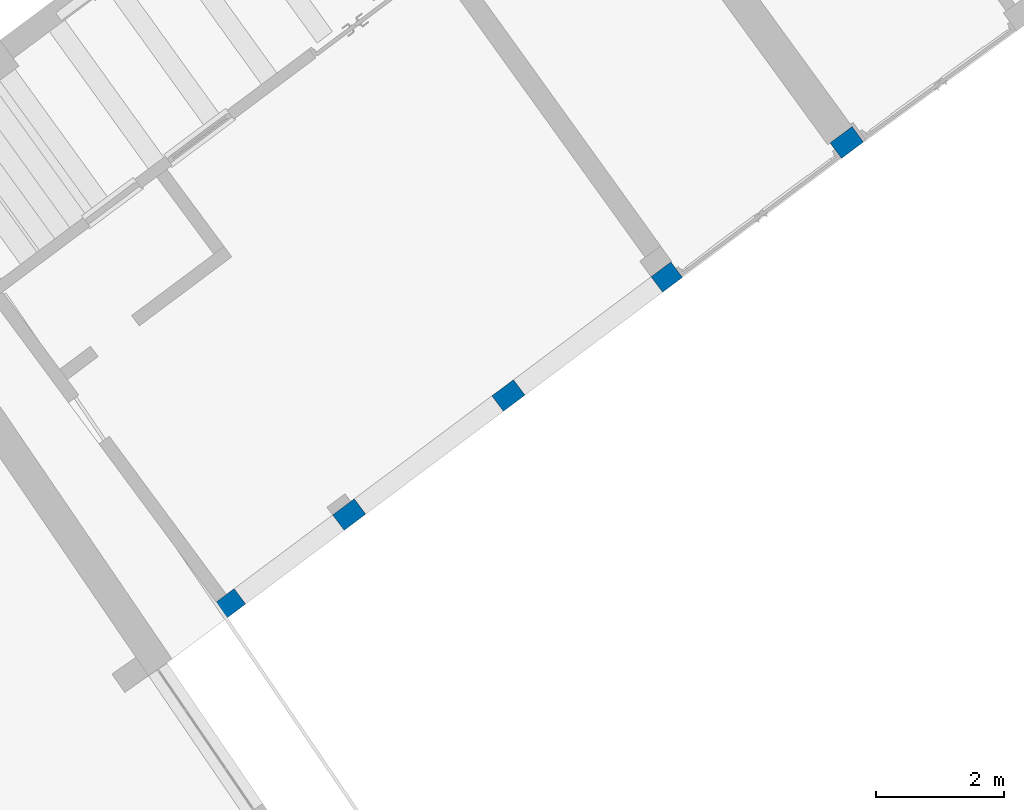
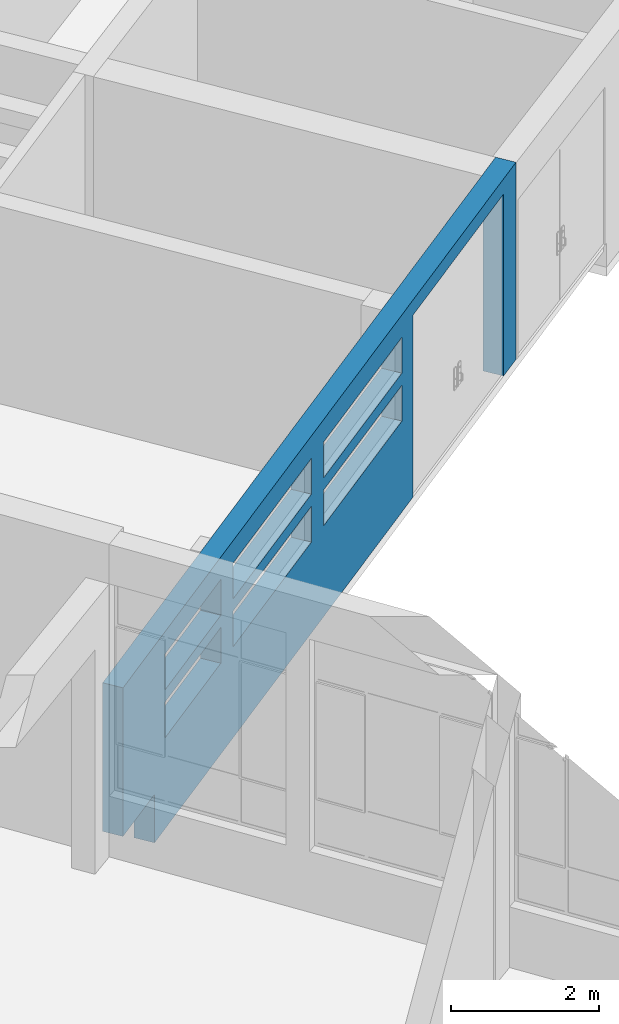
# One storey, part 134 of 157: 1 wall, 7 openings.
"""IFC2X3 building model written with IfcOpenShell, lengths in millimetres."""

from ifc_helpers import new_model, entity, si_unit, converted_unit, derived_unit, direction, frame, frame_2d, origin, place, context, subcontext, project, spatial, rectangle, extrude, faceted_brep, material, layer, layer_set, type_object, element, save


model = new_model("IFC2X3")

# Units and contexts
model_context = context("Model", 3, precision=0.01, world=origin(), true_north=direction((6.123031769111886e-17, 1.0)))
body_context = subcontext(model_context, "Body", "Model", "MODEL_VIEW")
ifc_project = project(units=[si_unit("LENGTHUNIT", "METRE", prefix="MILLI"), si_unit("AREAUNIT", "SQUARE_METRE"), si_unit("VOLUMEUNIT", "CUBIC_METRE"), converted_unit("PLANEANGLEUNIT", "DEGREE", entity("IfcRatioMeasure", 0.017453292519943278), si_unit("PLANEANGLEUNIT", "RADIAN"), dimensions=[0, 0, 0, 0, 0, 0, 0]), si_unit("MASSUNIT", "GRAM", prefix="KILO"), derived_unit("MASSDENSITYUNIT", [(si_unit("MASSUNIT", "GRAM", prefix="KILO"), 1), (si_unit("LENGTHUNIT", "METRE"), -3)]), derived_unit("MOMENTOFINERTIAUNIT", [(si_unit("LENGTHUNIT", "METRE"), 4)]), si_unit("TIMEUNIT", "SECOND"), si_unit("FREQUENCYUNIT", "HERTZ"), si_unit("THERMODYNAMICTEMPERATUREUNIT", "DEGREE_CELSIUS"), derived_unit("THERMALTRANSMITTANCEUNIT", [(si_unit("MASSUNIT", "GRAM", prefix="KILO"), 1), (si_unit("THERMODYNAMICTEMPERATUREUNIT", "KELVIN"), -1), (si_unit("TIMEUNIT", "SECOND"), -3)]), derived_unit("THERMALCONDUCTANCEUNIT", [(si_unit("MASSUNIT", "GRAM", prefix="KILO"), 1), (si_unit("LENGTHUNIT", "METRE"), 1), (si_unit("THERMODYNAMICTEMPERATUREUNIT", "KELVIN"), -1), (si_unit("TIMEUNIT", "SECOND"), -3)]), derived_unit("VOLUMETRICFLOWRATEUNIT", [(si_unit("LENGTHUNIT", "METRE"), 3), (si_unit("TIMEUNIT", "SECOND"), -1)]), derived_unit("MASSFLOWRATEUNIT", [(si_unit("MASSUNIT", "GRAM", prefix="KILO"), 1), (si_unit("TIMEUNIT", "SECOND"), -1)]), derived_unit("ROTATIONALFREQUENCYUNIT", [(si_unit("TIMEUNIT", "SECOND"), -1)]), si_unit("ELECTRICCURRENTUNIT", "AMPERE"), si_unit("ELECTRICVOLTAGEUNIT", "VOLT"), si_unit("POWERUNIT", "WATT"), converted_unit("FORCEUNIT", "KIP", entity("IfcRatioMeasure", 2.088543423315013e-05), si_unit("FORCEUNIT", "NEWTON"), dimensions=[1, 1, -2, 0, 0, 0, 0]), si_unit("ILLUMINANCEUNIT", "LUX"), si_unit("LUMINOUSFLUXUNIT", "LUMEN"), si_unit("LUMINOUSINTENSITYUNIT", "CANDELA"), derived_unit("USERDEFINED", [(si_unit("MASSUNIT", "GRAM", prefix="KILO"), -1), (si_unit("LENGTHUNIT", "METRE"), -2), (si_unit("TIMEUNIT", "SECOND"), 3), (si_unit("LUMINOUSFLUXUNIT", "LUMEN"), 1)]), derived_unit("USERDEFINED", [(si_unit("MASSUNIT", "GRAM", prefix="KILO"), 1), (si_unit("LENGTHUNIT", "METRE"), 3), (si_unit("TIMEUNIT", "SECOND"), -3), (si_unit("ELECTRICCURRENTUNIT", "AMPERE"), -2)]), derived_unit("USERDEFINED", [(si_unit("LENGTHUNIT", "METRE"), 2), (si_unit("TIMEUNIT", "SECOND"), -2)]), derived_unit("SOUNDPOWERUNIT", [(si_unit("MASSUNIT", "GRAM", prefix="KILO"), 1), (si_unit("LENGTHUNIT", "METRE"), 2), (si_unit("TIMEUNIT", "SECOND"), -3)]), derived_unit("SOUNDPRESSUREUNIT", [(si_unit("MASSUNIT", "GRAM", prefix="KILO"), 1), (si_unit("LENGTHUNIT", "METRE"), -1), (si_unit("TIMEUNIT", "SECOND"), -2)]), derived_unit("LINEARVELOCITYUNIT", [(si_unit("LENGTHUNIT", "METRE"), 1), (si_unit("TIMEUNIT", "SECOND"), -1)]), si_unit("PRESSUREUNIT", "PASCAL"), derived_unit("USERDEFINED", [(si_unit("LENGTHUNIT", "METRE"), -2), (si_unit("MASSUNIT", "GRAM", prefix="KILO"), 1), (si_unit("TIMEUNIT", "SECOND"), -2)]), derived_unit("LINEARFORCEUNIT", [(si_unit("MASSUNIT", "GRAM", prefix="KILO"), 1), (si_unit("LENGTHUNIT", "METRE"), 1), (si_unit("TIMEUNIT", "SECOND"), -2), (si_unit("LENGTHUNIT", "METRE"), -1)]), derived_unit("PLANARFORCEUNIT", [(si_unit("MASSUNIT", "GRAM", prefix="KILO"), 1), (si_unit("LENGTHUNIT", "METRE"), 1), (si_unit("TIMEUNIT", "SECOND"), -2), (si_unit("LENGTHUNIT", "METRE"), -2)]), derived_unit("SPECIFICHEATCAPACITYUNIT", [(si_unit("LENGTHUNIT", "METRE"), 2), (si_unit("TIMEUNIT", "SECOND"), -2), (si_unit("THERMODYNAMICTEMPERATUREUNIT", "KELVIN"), -1)]), derived_unit("VAPORPERMEABILITYUNIT", [(si_unit("TIMEUNIT", "SECOND"), 1), (si_unit("LENGTHUNIT", "METRE"), -1)]), derived_unit("DYNAMICVISCOSITYUNIT", [(si_unit("MASSUNIT", "GRAM", prefix="KILO"), 1), (si_unit("LENGTHUNIT", "METRE"), -1), (si_unit("TIMEUNIT", "SECOND"), -1)]), derived_unit("THERMALEXPANSIONCOEFFICIENTUNIT", [(si_unit("THERMODYNAMICTEMPERATUREUNIT", "KELVIN"), -1)])], contexts=[model_context])

# Site, building, storey
site_placement = place(None, frame((0.0, 0.0, 0.0), z_axis=(0.0, 0.0, 1.0), x_axis=(0.8191520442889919, 0.5735764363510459, 0.0)))
site = spatial("IfcSite", under=ifc_project, at=site_placement, Name="Default", CompositionType="ELEMENT")
building_placement = place(site_placement, origin())
building = spatial("IfcBuilding", under=site, at=building_placement, CompositionType="ELEMENT")
storey_placement = place(building_placement, origin())
storey = spatial("IfcBuildingStorey", under=building, at=storey_placement, Name="1.EG +0.00", CompositionType="ELEMENT", Elevation=-4.331468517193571e-12)

# Wall, openings
ifc_material = material(Name="Analytical Wall Surface_CJC")
ifc_layer = layer(ifc_material, 300.0)
ifc_layer_set = layer_set([ifc_layer], Name="Basic Wall:Wand_Aussen_30")
wall_type = type_object("IfcWallType", Name="Basic Wall:Wand_Aussen_30", PredefinedType="STANDARD", material=ifc_layer_set)
wall_placement = place(storey_placement, frame((-204115.16931109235, 157974.41195440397, -750.0), z_axis=(0.0, 0.0, 1.0), x_axis=(0.9995120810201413, 0.031234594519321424, 0.0)))
wall = element("IfcWall", 1, at=wall_placement, inside=storey, type_object=wall_type, Name="Basic Wall:Wand_Aussen_30", ObjectType="Basic Wall:Wand_Aussen_30", context=body_context, shape_type="Brep", body=[
    faceted_brep([(13462.146148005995, -150.0, 3250.0), (0.0, -150.0, 3250.0), (0.0, -150.0, 800.0), (1079.6115661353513, -150.0, 800.0), (1079.6115661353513, -150.0, 0.0), (9937.425197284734, -150.0, 0.0), (9937.425197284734, -150.0, 3000.0), (13037.425197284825, -150.0, 3000.0), (13037.425197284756, -150.0, 0.0), (13462.146148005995, -150.0, 0.0), (6451.92844655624, -150.0, 1500.0), (3771.928446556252, -150.0, 1500.0), (3771.928446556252, -150.0, 2090.0), (6451.92844655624, -150.0, 2090.0), (9551.928446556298, -150.0, 1500.0), (6871.928446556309, -150.0, 1500.0), (6871.928446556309, -150.0, 2090.0), (9551.928446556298, -150.0, 2090.0), (3351.9284465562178, -150.0, 1500.0), (1431.928446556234, -150.0, 1500.0), (1431.928446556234, -150.0, 2090.0), (3351.9284465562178, -150.0, 2090.0), (3351.9284465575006, -150.0, 2880.0), (3351.9284465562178, -150.0, 2290.0), (1431.928446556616, -150.0, 2290.0), (1431.9284465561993, -150.0, 2880.0), (9551.928446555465, -150.0, 2880.0), (9551.928446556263, -150.0, 2290.0), (6871.928446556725, -150.0, 2290.0), (6871.928446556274, -150.0, 2880.0), (6451.928446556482, -150.0, 2880.0), (6451.928446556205, -150.0, 2290.0), (3771.9284465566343, -150.0, 2290.0), (3771.9284465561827, -150.0, 2880.0), (0.0, 150.0, 3250.0), (1081.098058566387, 150.0, 3250.0), (1281.100513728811, 150.0, 3250.0), (3351.9284465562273, 150.0, 3250.0), (3701.9284465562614, 150.0, 3250.0), (9551.928446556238, 150.0, 3250.0), (9951.967355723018, 150.0, 3250.0), (12990.91558234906, 150.0, 3250.0), (13465.953840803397, 150.0, 3250.0), (13465.953840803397, 150.0, 0.0), (13037.425197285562, 150.0, 0.0), (13037.42519728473, 150.0, 3000.0), (9937.425197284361, 150.0, 3000.0), (9937.425197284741, 150.0, 0.0), (1281.100513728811, 150.0, 0.0), (1081.098058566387, 150.0, 0.0), (1081.098058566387, 150.0, 800.0), (0.0, 150.0, 800.0), (6451.928446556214, 150.0, 1500.0), (6451.928446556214, 150.0, 2090.0), (3771.9284465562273, 150.0, 2090.0), (3771.9284465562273, 150.0, 1500.0), (9551.928446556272, 150.0, 1500.0), (9551.928446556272, 150.0, 2090.0), (6871.928446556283, 150.0, 2090.0), (6871.928446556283, 150.0, 1500.0), (3351.9284465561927, 150.0, 1500.0), (3351.9284465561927, 150.0, 2090.0), (1431.9284465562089, 150.0, 2090.0), (1431.9284465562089, 150.0, 1500.0), (9551.928446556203, 150.0, 2290.0), (9551.928446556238, 150.0, 2880.0), (6871.928446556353, 150.0, 2880.0), (6871.928446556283, 150.0, 2290.0), (6451.928446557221, 150.0, 2290.0), (6451.928446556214, 150.0, 2880.0), (3771.928446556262, 150.0, 2880.0), (3771.9284465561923, 150.0, 2290.0), (3351.9284465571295, 150.0, 2290.0), (3351.9284465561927, 150.0, 2880.0), (1431.9284465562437, 150.0, 2880.0), (1431.9284465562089, 150.0, 2290.0)], [[[0, 1, 2, 3, 4, 5, 6, 7, 8, 9], [10, 11, 12, 13], [14, 15, 16, 17], [18, 19, 20, 21], [22, 23, 24, 25], [26, 27, 28, 29], [30, 31, 32, 33]], [[34, 35, 36, 37, 38, 39, 40, 41, 42, 43, 44, 45, 46, 47, 48, 49, 50, 51], [52, 53, 54, 55], [56, 57, 58, 59], [60, 61, 62, 63], [64, 65, 66, 67], [68, 69, 70, 71], [72, 73, 74, 75]], [[0, 9, 43, 42]], [[4, 49, 48, 47, 5]], [[1, 0, 42, 41, 40, 39, 38, 37, 36, 35, 34]], [[2, 1, 34, 51]], [[3, 2, 51, 50]], [[4, 3, 50, 49]], [[46, 6, 5, 47]], [[6, 46, 45, 7]], [[7, 45, 44, 8]], [[53, 52, 10, 13]], [[54, 53, 13, 12]], [[55, 54, 12, 11]], [[52, 55, 11, 10]], [[57, 56, 14, 17]], [[58, 57, 17, 16]], [[59, 58, 16, 15]], [[56, 59, 15, 14]], [[61, 60, 18, 21]], [[62, 61, 21, 20]], [[63, 62, 20, 19]], [[60, 63, 19, 18]], [[72, 23, 22, 73]], [[73, 22, 25, 74]], [[74, 25, 24, 75]], [[23, 72, 75, 24]], [[64, 27, 26, 65]], [[65, 26, 29, 66]], [[28, 67, 66, 29]], [[27, 64, 67, 28]], [[68, 31, 30, 69]], [[69, 30, 33, 70]], [[32, 71, 70, 33]], [[31, 68, 71, 32]], [[43, 9, 8, 44]]]),
])
opening_1_placement = place(wall_placement, frame((13037.425197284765, 150.0, 0.0)))
element("IfcOpeningElement", 2, at=opening_1_placement, cuts=wall, Name="M_Door-Exterior-Double:300x290:1", ObjectType="Opening", context=body_context, shape_type="SweptSolid", body=[
    extrude(rectangle(XDim=3000.0, YDim=3099.999999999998, at=frame_2d((1500.0, 1549.999999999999), x_axis=(1.0, 0.0))), frame((0.0, 0.0, 0.0), z_axis=(0.0, -1.0, 0.0), x_axis=(0.0, 0.0, 1.0)), (0.0, 0.0, 1.0), 300.0),
])
opening_2_placement = place(wall_placement, frame((6451.928446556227, 150.0, 1500.0)))
element("IfcOpeningElement", 3, at=opening_2_placement, cuts=wall, Name="WINDOW_Glass_Block:WINDOW_Glass_Block_14x3:1", ObjectType="Opening", context=body_context, shape_type="SweptSolid", body=[
    extrude(rectangle(XDim=589.9999999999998, YDim=2679.999999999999, at=frame_2d((294.99999999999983, 1339.9999999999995), x_axis=(1.0, 0.0))), frame((0.0, 0.0, 0.0), z_axis=(0.0, -1.0, 0.0), x_axis=(0.0, 0.0, 1.0)), (0.0, 0.0, 1.0), 300.0),
])
opening_3_placement = place(wall_placement, frame((9551.928446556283, 150.0, 1500.0)))
element("IfcOpeningElement", 4, at=opening_3_placement, cuts=wall, Name="WINDOW_Glass_Block:WINDOW_Glass_Block_14x3:1", ObjectType="Opening", context=body_context, shape_type="SweptSolid", body=[
    extrude(rectangle(XDim=589.9999999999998, YDim=2679.999999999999, at=frame_2d((294.99999999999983, 1339.9999999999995), x_axis=(1.0, 0.0))), frame((0.0, 0.0, 0.0), z_axis=(0.0, -1.0, 0.0), x_axis=(0.0, 0.0, 1.0)), (0.0, 0.0, 1.0), 300.0),
])
opening_4_placement = place(wall_placement, frame((3351.92844655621, 150.0, 1500.0)))
element("IfcOpeningElement", 5, at=opening_4_placement, cuts=wall, Name="WINDOW_Glass_Block:WINDOW_Glass_Block_10x3:1", ObjectType="Opening", context=body_context, shape_type="SweptSolid", body=[
    extrude(rectangle(XDim=589.9999999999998, YDim=1920.0, at=frame_2d((294.99999999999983, 960.0), x_axis=(1.0, 0.0))), frame((0.0, 0.0, 0.0), z_axis=(0.0, -1.0, 0.0), x_axis=(0.0, 0.0, 1.0)), (0.0, 0.0, 1.0), 300.0),
])
opening_5_placement = place(wall_placement, frame((6451.928446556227, 150.0, 2290.0)))
element("IfcOpeningElement", 6, at=opening_5_placement, cuts=wall, Name="WINDOW_Glass_Block:WINDOW_Glass_Block_14x3:1", ObjectType="Opening", context=body_context, shape_type="SweptSolid", body=[
    extrude(rectangle(XDim=589.9999999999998, YDim=2679.999999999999, at=frame_2d((294.99999999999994, 1339.9999999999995), x_axis=(1.0, 0.0))), frame((0.0, 0.0, 0.0), z_axis=(0.0, -1.0, 0.0), x_axis=(0.0, 0.0, 1.0)), (0.0, 0.0, 1.0), 300.0),
])
opening_6_placement = place(wall_placement, frame((9551.928446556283, 150.0, 2290.0)))
element("IfcOpeningElement", 7, at=opening_6_placement, cuts=wall, Name="WINDOW_Glass_Block:WINDOW_Glass_Block_14x3:1", ObjectType="Opening", context=body_context, shape_type="SweptSolid", body=[
    extrude(rectangle(XDim=589.9999999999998, YDim=2679.999999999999, at=frame_2d((294.99999999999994, 1339.9999999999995), x_axis=(1.0, 0.0))), frame((0.0, 0.0, 0.0), z_axis=(0.0, -1.0, 0.0), x_axis=(0.0, 0.0, 1.0)), (0.0, 0.0, 1.0), 300.0),
])
opening_7_placement = place(wall_placement, frame((3351.92844655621, 150.0, 2290.0)))
element("IfcOpeningElement", 8, at=opening_7_placement, cuts=wall, Name="WINDOW_Glass_Block:WINDOW_Glass_Block_10x3:1", ObjectType="Opening", context=body_context, shape_type="SweptSolid", body=[
    extrude(rectangle(XDim=589.9999999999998, YDim=1920.0, at=frame_2d((294.99999999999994, 960.0), x_axis=(1.0, 0.0))), frame((0.0, 0.0, 0.0), z_axis=(0.0, -1.0, 0.0), x_axis=(0.0, 0.0, 1.0)), (0.0, 0.0, 1.0), 300.0),
])

save(model, "model.ifc")
